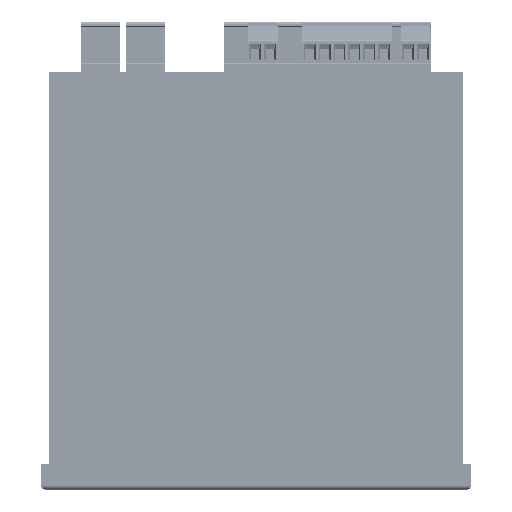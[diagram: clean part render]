
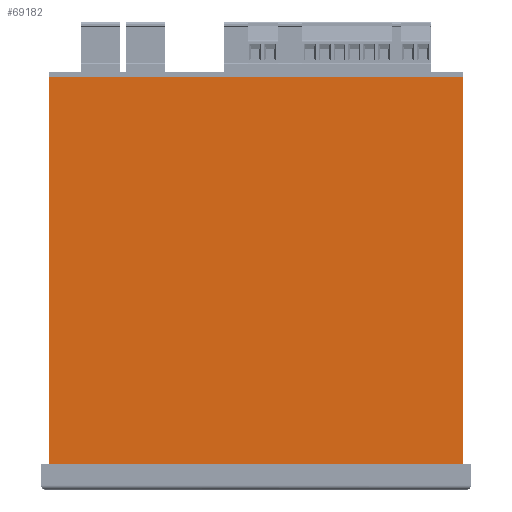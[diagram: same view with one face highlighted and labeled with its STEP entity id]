
A CAD part, top view. The second image highlights one B-rep face of the part: STEP entity #69182.
In plain terms, the highlighted planar face has unit normal (0, 0, 1) as drawn and (0, -1, 0) by its records, which use the part's own axes.
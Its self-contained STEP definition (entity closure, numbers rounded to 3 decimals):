
#1420 = VERTEX_POINT ( 'NONE', #23210 ) ;
#10139 = AXIS2_PLACEMENT_3D ( 'NONE', #18445, #131916, #34780 ) ;
#12618 = VERTEX_POINT ( 'NONE', #204442 ) ;
#18445 = CARTESIAN_POINT ( 'NONE',  ( 69.35, -33., -138.5 ) ) ;
#21647 = DIRECTION ( 'NONE',  ( -1., 0., 0. ) ) ;
#23210 = CARTESIAN_POINT ( 'NONE',  ( -69.35, -33., -138.5 ) ) ;
#23281 = LINE ( 'NONE', #64852, #190262 ) ;
#32967 = LINE ( 'NONE', #172712, #152091 ) ;
#34780 = DIRECTION ( 'NONE',  ( 0., 0., 1. ) ) ;
#39707 = CARTESIAN_POINT ( 'NONE',  ( -69.35, -33., -8.5 ) ) ;
#54330 = CARTESIAN_POINT ( 'NONE',  ( 69.35, -33., -8.5 ) ) ;
#56573 = VECTOR ( 'NONE', #64277, 1000. ) ;
#64277 = DIRECTION ( 'NONE',  ( -1., 0., 0. ) ) ;
#64852 = CARTESIAN_POINT ( 'NONE',  ( 69.35, -33., -138.5 ) ) ;
#65318 = VERTEX_POINT ( 'NONE', #39707 ) ;
#69182 = ADVANCED_FACE ( 'NONE', ( #113800 ), #131218, .F. ) ;
#76639 = VECTOR ( 'NONE', #21647, 1000. ) ;
#79639 = ORIENTED_EDGE ( 'NONE', *, *, #146241, .T. ) ;
#87900 = ORIENTED_EDGE ( 'NONE', *, *, #158109, .F. ) ;
#92637 = EDGE_CURVE ( 'NONE', #190148, #65318, #205353, .T. ) ;
#94759 = EDGE_LOOP ( 'NONE', ( #153246, #87900, #97732, #79639 ) ) ;
#97732 = ORIENTED_EDGE ( 'NONE', *, *, #193679, .F. ) ;
#113066 = CARTESIAN_POINT ( 'NONE',  ( 69.35, -33., -138.5 ) ) ;
#113800 = FACE_OUTER_BOUND ( 'NONE', #94759, .T. ) ;
#131218 = PLANE ( 'NONE',  #10139 ) ;
#131916 = DIRECTION ( 'NONE',  ( 0., 1., 0. ) ) ;
#142711 = LINE ( 'NONE', #113066, #56573 ) ;
#146241 = EDGE_CURVE ( 'NONE', #12618, #190148, #23281, .T. ) ;
#152091 = VECTOR ( 'NONE', #188870, 1000. ) ;
#153246 = ORIENTED_EDGE ( 'NONE', *, *, #92637, .T. ) ;
#158109 = EDGE_CURVE ( 'NONE', #1420, #65318, #32967, .T. ) ;
#172712 = CARTESIAN_POINT ( 'NONE',  ( -69.35, -33., -138.5 ) ) ;
#177877 = DIRECTION ( 'NONE',  ( 0., 0., 1. ) ) ;
#187559 = CARTESIAN_POINT ( 'NONE',  ( 69.35, -33., -8.5 ) ) ;
#188870 = DIRECTION ( 'NONE',  ( 0., 0., 1. ) ) ;
#190148 = VERTEX_POINT ( 'NONE', #187559 ) ;
#190262 = VECTOR ( 'NONE', #177877, 1000. ) ;
#193679 = EDGE_CURVE ( 'NONE', #12618, #1420, #142711, .T. ) ;
#204442 = CARTESIAN_POINT ( 'NONE',  ( 69.35, -33., -138.5 ) ) ;
#205353 = LINE ( 'NONE', #54330, #76639 ) ;
